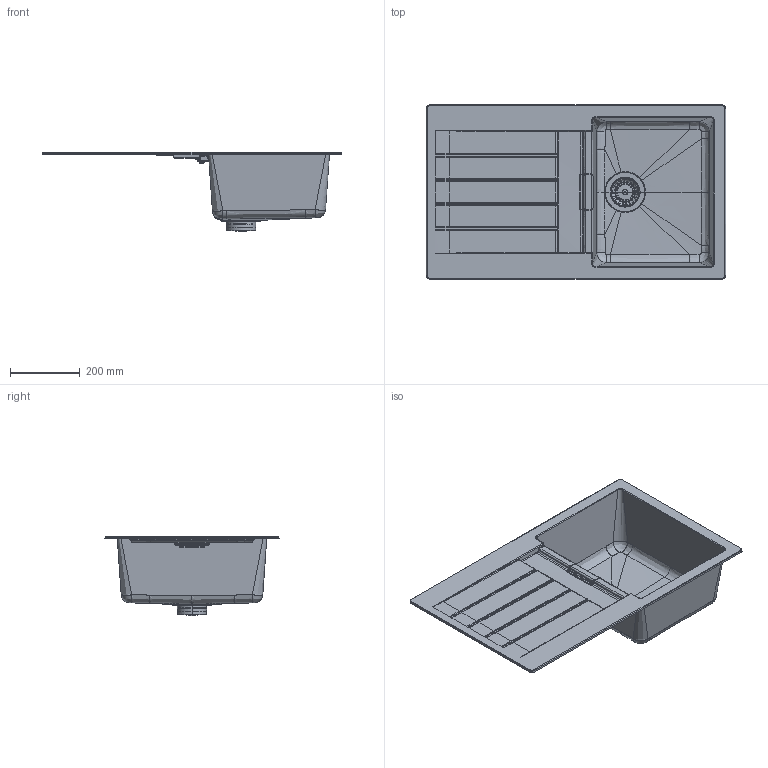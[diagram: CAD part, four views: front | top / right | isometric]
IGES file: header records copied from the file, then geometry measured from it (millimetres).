
Global section: file name: /Volumes/__KUNDEN/____01_SCHOCK/____projekte_schock/__RENDERINGS/__SPUELEN/02_3D Daten/02_PERSPEKTIVEN/Rhino/_SPU; native system: Rhinoceros ( Aug 27 2014 ); preprocessor: Trout Lake IGES 012 Aug 27 2014; date: 141104.094534; units: millimetre
Bounding box: 860 x 500 x 227.2 mm (x, y, z)
Surface area: 740881 mm2 (no closed solid volume)
Topology: 0 solids, 0 shells, 614 faces, 43543 edges, 43533 vertices
Faces by surface type: bspline 614
